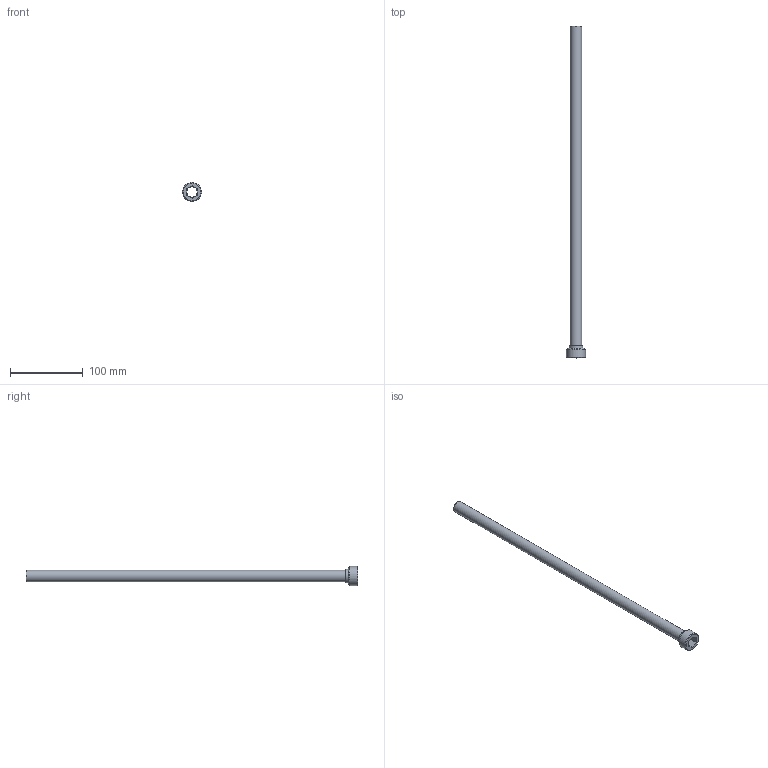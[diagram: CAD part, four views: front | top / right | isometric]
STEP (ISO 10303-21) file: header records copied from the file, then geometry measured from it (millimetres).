
FILE_DESCRIPTION(/* description */ (''),/* implementation_level */ '2;1');
FILE_NAME(/* name */ 'C:/Users/drich/Desktop/PT34-625-18 v1.step',/* time_stamp */ '2019-12-27T15:50:21-06:00',/* author */ (''),/* organization */ (''),/* preprocessor_version */ 'ST-DEVELOPER v18',/* originating_system */ 'Autodesk Translation Framework v8.12.0.6',/* authorisation */ '');
FILE_SCHEMA (('AUTOMOTIVE_DESIGN { 1 0 10303 214 3 1 1 }'));
Length unit declared in the file: inch
Products named in the file (1): PT34-625-18
Bounding box: 26.3 x 457.2 x 26.3 mm (x, y, z)
Volume: 19755.9 mm3; surface area: 44705.3 mm2
Topology: 1 solids, 1 shells, 19 faces, 48 edges, 34 vertices
Faces by surface type: plane 11, cylinder 4, torus 2, cone 2
Full cylindrical faces by diameter (mm): 14.453 x1, 15.85 x1, 19.05 x1, 26.299 x1
Entity records: 633 total; most frequent: DIRECTION 112, CARTESIAN_POINT 102, ORIENTED_EDGE 96, EDGE_CURVE 48, AXIS2_PLACEMENT_3D 44, VERTEX_POINT 34, CIRCLE 24, EDGE_LOOP 24
